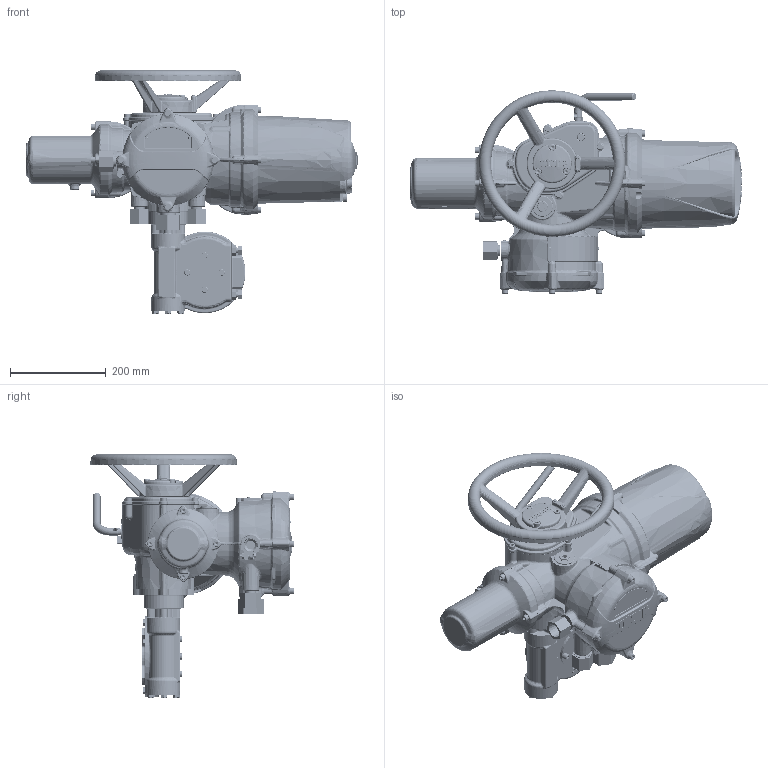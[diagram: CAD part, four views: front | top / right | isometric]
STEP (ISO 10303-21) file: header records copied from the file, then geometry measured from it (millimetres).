
FILE_DESCRIPTION( ( 'Unknown' ), '1' );
FILE_NAME( 'S:/DocsUnderChange/DrawingsFromMTMS/InstallationDrgs/Standardised drawings/IQ3/IWD/II1THWIWD3STD-1.stp', 'Unknown', ( 'Unknown' ), ( 'Unknown' ), 'PSStep 17.0.49', 'Unknown', ' ' );
FILE_SCHEMA( ( 'AUTOMOTIVE_DESIGN { 1 0 10303 214 1 1 1 1 }' ) );
Length unit declared in the file: millimetre
Products named in the file (9): II0-20LONG-std
Bounding box: 692.3 x 423.78 x 507.06 mm (x, y, z)
Volume: 42395.6 mm3; surface area: 982292.1 mm2
Topology: 63 solids, 65 shells, 7629 faces, 19370 edges, 11639 vertices
Faces by surface type: plane 2673, bspline 2249, cylinder 1017, cone 757, torus 628, sphere 166, extrusion 103, revolution 21, offset 15
Full cylindrical faces by diameter (mm): 0.2 x1, 1.152 x1, 3 x12, 4 x2, 4.753 x1, 4.773 x1, 6 x10, 6.2 x1, 6.4 x1, 6.45 x5, 6.47 x5, 6.5 x1, 6.75 x1, 7 x4, 7.6 x4, 8 x30, 8.1 x5, 8.2 x5, 8.5 x16, 10 x1, 10.106 x4, 10.2 x2, 11.78 x1, 12 x3, 13 x24, 13.25 x4, 13.5 x4, 15.5 x1, 16 x4, 16.186 x1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
Entity records: 654993 total; most frequent: CARTESIAN_POINT 434624, ORIENTED_EDGE 36712, DIRECTION 27833, EDGE_CURVE 18356, VERTEX_POINT 11357, AXIS2_PLACEMENT_3D 11237, EDGE_LOOP 8340, FACE_OUTER_BOUND 7893
